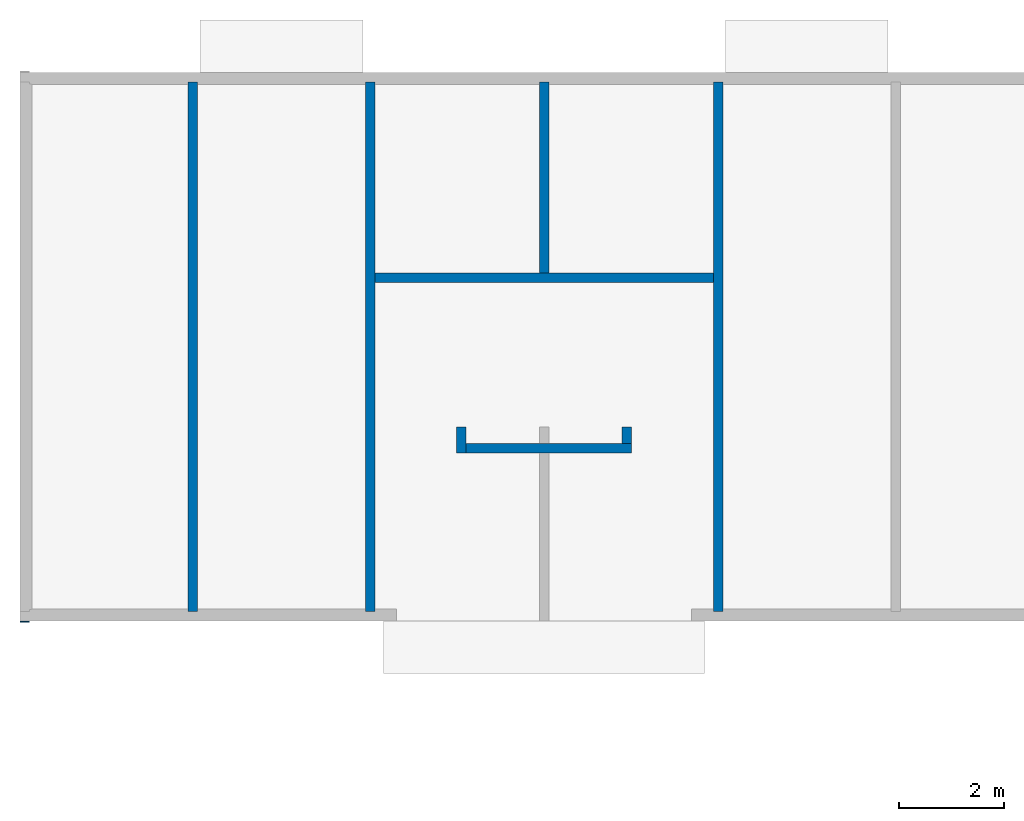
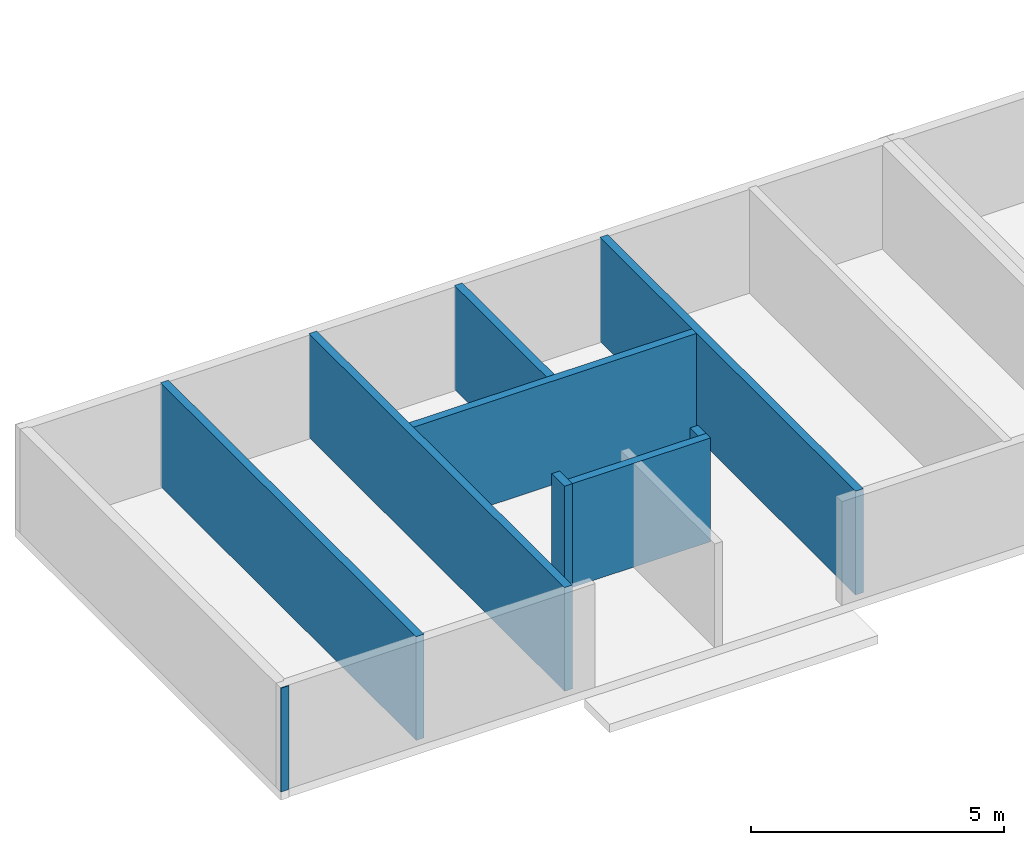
# One storey, part 2 of 10: 9 walls.
"""IFC2X3 building model written with IfcOpenShell, lengths in metres."""

from ifc_helpers import new_model, si_unit, frame, frame_2d, origin, origin_with_axes, place, context, project, spatial, rectangle, extrude, element, save


model = new_model("IFC2X3")

# Units and contexts
model_context = context("Model", 3, precision=1e-06, world=origin())
ifc_project = project(units=[si_unit("LENGTHUNIT", "METRE"), si_unit("PLANEANGLEUNIT", "RADIAN")], contexts=[model_context])

# Site, building, storey
site = spatial("IfcSite", under=ifc_project, CompositionType="ELEMENT")
building = spatial("IfcBuilding", under=site, CompositionType="ELEMENT")
storey = spatial("IfcBuildingStorey", under=building, Name="r+1", CompositionType="ELEMENT", Elevation=2.7)

# Walls
placement = place(None, origin())
wall_1_placement = place(placement, frame((-6e-15, 0.020077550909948, 2.7), z_axis=(0.0, 0.0, 1.0), x_axis=(1.0, 0.0, 0.0)))
element("IfcWall", 1, at=wall_1_placement, inside=storey, context=model_context, shape_type="SweptSolid", body=[
    extrude(rectangle(XDim=0.18, YDim=0.020077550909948, at=frame_2d((0.09, 0.010038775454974), x_axis=(1.0, 0.0)), kind="CURVE"), frame((0.0, -0.020077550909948, 0.0), z_axis=(0.0, 0.0, 1.0), x_axis=(1.0, 0.0, 0.0)), (0.0, 0.0, 1.0), 2.5),
])
wall_2_placement = place(placement, frame((6.759999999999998, 0.200077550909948, 2.7), z_axis=(0.0, 0.0, 1.0), x_axis=(0.0, 1.0, 0.0)))
element("IfcWall", 2, at=wall_2_placement, inside=storey, context=model_context, shape_type="SweptSolid", body=[
    extrude(rectangle(XDim=10.090000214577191, YDim=0.18, at=frame_2d((5.045000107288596, 0.09), x_axis=(1.0, 0.0)), kind="CURVE"), origin_with_axes(), (0.0, 0.0, 1.0), 2.5),
])
wall_3_placement = place(placement, frame((8.499999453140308, 3.220077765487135, 2.7), z_axis=(0.0, 0.0, 1.0), x_axis=(0.0, 1.0, 0.0)))
element("IfcWall", 3, at=wall_3_placement, inside=storey, context=model_context, shape_type="SweptSolid", body=[
    extrude(rectangle(XDim=0.5, YDim=0.18, at=frame_2d((0.25, 0.09), x_axis=(1.0, 0.0)), kind="CURVE"), origin_with_axes(), (0.0, 0.0, 1.0), 2.5),
])
for number, where, z_axis, x_axis in (
    (4, (13.38999993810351, 0.200077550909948, 2.7), (0.0, 0.0, 1.0), (0.0, 1.0, 0.0)),
    (5, (3.38, 0.200077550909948, 2.7), (0.0, 0.0, 1.0), (0.0, 1.0, 0.0)),
):
    element("IfcWall", number, at=place(placement, frame(where, z_axis=z_axis, x_axis=x_axis)), inside=storey, context=model_context, shape_type="SweptSolid", body=[
        extrude(rectangle(XDim=10.090000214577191, YDim=0.18, at=frame_2d((5.045000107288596, 0.09), x_axis=(1.0, 0.0)), kind="CURVE"), origin_with_axes(), (0.0, 0.0, 1.0), 2.5),
    ])
wall_4_placement = place(placement, frame((11.46999945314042, 3.720077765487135, 2.7), z_axis=(0.0, 0.0, 1.0), x_axis=(0.0, -1.0, 0.0)))
element("IfcWall", 6, at=wall_4_placement, inside=storey, context=model_context, shape_type="SweptSolid", body=[
    extrude(rectangle(XDim=0.32, YDim=0.18, at=frame_2d((0.16, 0.09), x_axis=(1.0, 0.0)), kind="CURVE"), origin_with_axes(), (0.0, 0.0, 1.0), 2.5),
])
wall_5_placement = place(placement, frame((11.64999945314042, 3.400077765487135, 2.7), z_axis=(0.0, 0.0, 1.0), x_axis=(-1.0, 0.0, 0.0)))
element("IfcWall", 7, at=wall_5_placement, inside=storey, context=model_context, shape_type="SweptSolid", body=[
    extrude(rectangle(XDim=3.150000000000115, YDim=0.18, at=frame_2d((1.575000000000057, 0.09), x_axis=(1.0, 0.0)), kind="CURVE"), origin_with_axes(), (0.0, 0.0, 1.0), 2.5),
])
wall_6_placement = place(placement, frame((13.20999947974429, 6.650077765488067, 2.7), z_axis=(0.0, 0.0, 1.0), x_axis=(-1.0, 0.0, 0.0)))
element("IfcWall", 8, at=wall_6_placement, inside=storey, context=model_context, shape_type="SweptSolid", body=[
    extrude(rectangle(XDim=6.449999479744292, YDim=0.18, at=frame_2d((3.224999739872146, 0.09), x_axis=(1.0, 0.0)), kind="CURVE"), origin_with_axes(), (0.0, 0.0, 1.0), 2.5),
])
wall_7_placement = place(placement, frame((10.075000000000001, 6.650077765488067, 2.7), z_axis=(0.0, 0.0, 1.0), x_axis=(0.0, 1.0, 0.0)))
element("IfcWall", 9, at=wall_7_placement, inside=storey, context=model_context, shape_type="SweptSolid", body=[
    extrude(rectangle(XDim=3.639999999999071, YDim=0.18, at=frame_2d((1.819999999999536, 0.09), x_axis=(1.0, 0.0)), kind="CURVE"), origin_with_axes(), (0.0, 0.0, 1.0), 2.5),
])

save(model, "model.ifc")
